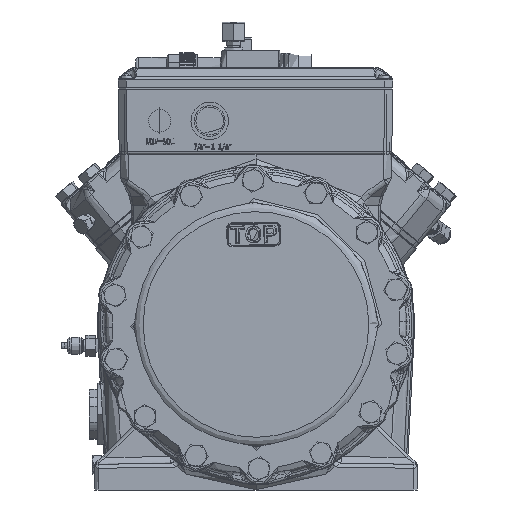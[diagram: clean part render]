
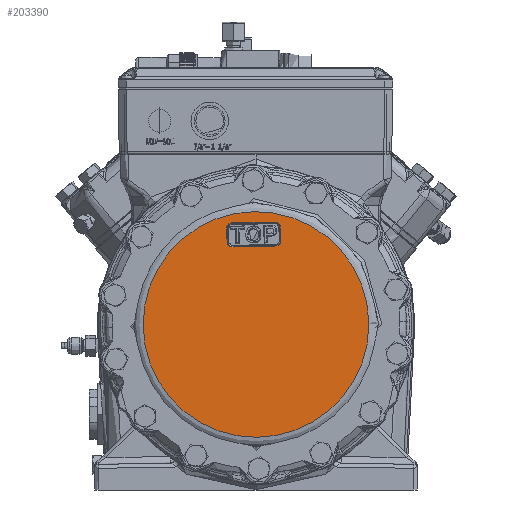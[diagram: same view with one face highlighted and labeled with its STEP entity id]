
A CAD part, front view. The second image highlights one B-rep face of the part: STEP entity #203390.
In plain terms, the highlighted planar face has unit normal (0, -1, 0).
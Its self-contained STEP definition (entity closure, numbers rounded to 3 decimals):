
#202115=CARTESIAN_POINT('',(16.828,-213.247,95.632));
#202116=VERTEX_POINT('',#202115);
#202135=CARTESIAN_POINT('',(19.758,-213.247,92.814));
#202136=VERTEX_POINT('',#202135);
#202144=CARTESIAN_POINT('',(16.828,-213.247,95.632));
#202145=CARTESIAN_POINT('',(19.702,-213.247,95.688));
#202146=CARTESIAN_POINT('',(19.758,-213.247,92.814));
#202147=(BOUNDED_CURVE()
B_SPLINE_CURVE(2,(#202144,#202145,#202146),.UNSPECIFIED.,.F.,.F.)
B_SPLINE_CURVE_WITH_KNOTS((3,3),(140.144,219.856),.UNSPECIFIED.)
CURVE()
GEOMETRIC_REPRESENTATION_ITEM()
RATIONAL_B_SPLINE_CURVE((1.,0.768,1.))
REPRESENTATION_ITEM(''));
#202148=EDGE_CURVE('',#202116,#202136,#202147,.T.);
#202166=CARTESIAN_POINT('',(-20.584,-213.247,92.03));
#202167=VERTEX_POINT('',#202166);
#202186=CARTESIAN_POINT('',(-17.766,-213.247,94.96));
#202187=VERTEX_POINT('',#202186);
#202195=CARTESIAN_POINT('',(-20.584,-213.247,92.03));
#202196=CARTESIAN_POINT('',(-20.64,-213.247,94.904));
#202197=CARTESIAN_POINT('',(-17.766,-213.247,94.96));
#202198=(BOUNDED_CURVE()
B_SPLINE_CURVE(2,(#202195,#202196,#202197),.UNSPECIFIED.,.F.,.F.)
B_SPLINE_CURVE_WITH_KNOTS((3,3),(140.144,219.856),.UNSPECIFIED.)
CURVE()
GEOMETRIC_REPRESENTATION_ITEM()
RATIONAL_B_SPLINE_CURVE((1.,0.768,1.))
REPRESENTATION_ITEM(''));
#202199=EDGE_CURVE('',#202167,#202187,#202198,.T.);
#202211=CARTESIAN_POINT('',(-17.417,-213.247,77.012));
#202212=VERTEX_POINT('',#202211);
#202220=CARTESIAN_POINT('',(17.177,-213.247,77.685));
#202221=VERTEX_POINT('',#202220);
#202222=CARTESIAN_POINT('',(17.177,-213.247,77.685));
#202223=DIRECTION('',(-1.,0.,-0.019));
#202224=VECTOR('',#202223,34.601);
#202225=LINE('',#202222,#202224);
#202226=EDGE_CURVE('',#202221,#202212,#202225,.T.);
#202734=CARTESIAN_POINT('',(19.995,-213.247,80.614));
#202735=VERTEX_POINT('',#202734);
#202736=CARTESIAN_POINT('',(19.995,-213.247,80.614));
#202737=CARTESIAN_POINT('',(20.051,-213.247,77.74));
#202738=CARTESIAN_POINT('',(17.177,-213.247,77.685));
#202739=(BOUNDED_CURVE()
B_SPLINE_CURVE(2,(#202736,#202737,#202738),.UNSPECIFIED.,.F.,.F.)
B_SPLINE_CURVE_WITH_KNOTS((3,3),(140.144,219.856),.UNSPECIFIED.)
CURVE()
GEOMETRIC_REPRESENTATION_ITEM()
RATIONAL_B_SPLINE_CURVE((1.,0.768,1.))
REPRESENTATION_ITEM(''));
#202740=EDGE_CURVE('',#202735,#202221,#202739,.T.);
#202918=CARTESIAN_POINT('',(19.758,-213.247,92.814));
#202919=DIRECTION('',(0.019,-0.,-1.));
#202920=VECTOR('',#202919,12.202);
#202921=LINE('',#202918,#202920);
#202922=EDGE_CURVE('',#202136,#202735,#202921,.T.);
#202961=CARTESIAN_POINT('',(-20.347,-213.247,79.83));
#202962=VERTEX_POINT('',#202961);
#202970=CARTESIAN_POINT('',(-17.417,-213.247,77.012));
#202971=CARTESIAN_POINT('',(-20.291,-213.247,76.956));
#202972=CARTESIAN_POINT('',(-20.347,-213.247,79.83));
#202973=(BOUNDED_CURVE()
B_SPLINE_CURVE(2,(#202970,#202971,#202972),.UNSPECIFIED.,.F.,.F.)
B_SPLINE_CURVE_WITH_KNOTS((3,3),(140.144,219.856),.UNSPECIFIED.)
CURVE()
GEOMETRIC_REPRESENTATION_ITEM()
RATIONAL_B_SPLINE_CURVE((1.,0.768,1.))
REPRESENTATION_ITEM(''));
#202974=EDGE_CURVE('',#202212,#202962,#202973,.T.);
#202987=CARTESIAN_POINT('',(-17.766,-213.247,94.96));
#202988=DIRECTION('',(1.,-0.,0.019));
#202989=VECTOR('',#202988,34.601);
#202990=LINE('',#202987,#202989);
#202991=EDGE_CURVE('',#202187,#202116,#202990,.T.);
#203057=CARTESIAN_POINT('',(-20.347,-213.247,79.83));
#203058=DIRECTION('',(-0.019,0.,1.));
#203059=VECTOR('',#203058,12.202);
#203060=LINE('',#203057,#203059);
#203061=EDGE_CURVE('',#202962,#202167,#203060,.T.);
#203339=CARTESIAN_POINT('',(86.27,-213.247,20.291));
#203340=VERTEX_POINT('',#203339);
#203352=CARTESIAN_POINT('',(86.286,-213.247,18.642));
#203353=VERTEX_POINT('',#203352);
#203354=CARTESIAN_POINT('',(1.405,-213.247,18.642));
#203355=DIRECTION('',(0.,1.,-0.));
#203356=DIRECTION('',(1.,-0.,0.));
#203357=AXIS2_PLACEMENT_3D('',#203354,#203355,#203356);
#203358=CIRCLE('',#203357,84.881);
#203359=EDGE_CURVE('',#203340,#203353,#203358,.T.);
#203361=CARTESIAN_POINT('',(1.405,-213.247,18.642));
#203362=DIRECTION('',(0.,1.,-0.));
#203363=DIRECTION('',(1.,-0.,0.));
#203364=AXIS2_PLACEMENT_3D('',#203361,#203362,#203363);
#203365=CIRCLE('',#203364,84.881);
#203366=EDGE_CURVE('',#203353,#203340,#203365,.T.);
#203371=CARTESIAN_POINT('',(1.405,-213.247,18.642));
#203372=DIRECTION('',(0.,1.,-0.));
#203373=DIRECTION('',(0.019,-0.,-1.));
#203374=AXIS2_PLACEMENT_3D('',#203371,#203372,#203373);
#203375=PLANE('',#203374);
#203376=ORIENTED_EDGE('',*,*,#203359,.F.);
#203377=ORIENTED_EDGE('',*,*,#203366,.F.);
#203378=EDGE_LOOP('',(#203376,#203377));
#203379=FACE_BOUND('',#203378,.T.);
#203380=ORIENTED_EDGE('',*,*,#202922,.T.);
#203381=ORIENTED_EDGE('',*,*,#202740,.T.);
#203382=ORIENTED_EDGE('',*,*,#202226,.T.);
#203383=ORIENTED_EDGE('',*,*,#202974,.T.);
#203384=ORIENTED_EDGE('',*,*,#203061,.T.);
#203385=ORIENTED_EDGE('',*,*,#202199,.T.);
#203386=ORIENTED_EDGE('',*,*,#202991,.T.);
#203387=ORIENTED_EDGE('',*,*,#202148,.T.);
#203388=EDGE_LOOP('',(#203380,#203381,#203382,#203383,#203384,#203385,#203386,#203387));
#203389=FACE_BOUND('',#203388,.T.);
#203390=ADVANCED_FACE('',(#203379,#203389),#203375,.F.);
